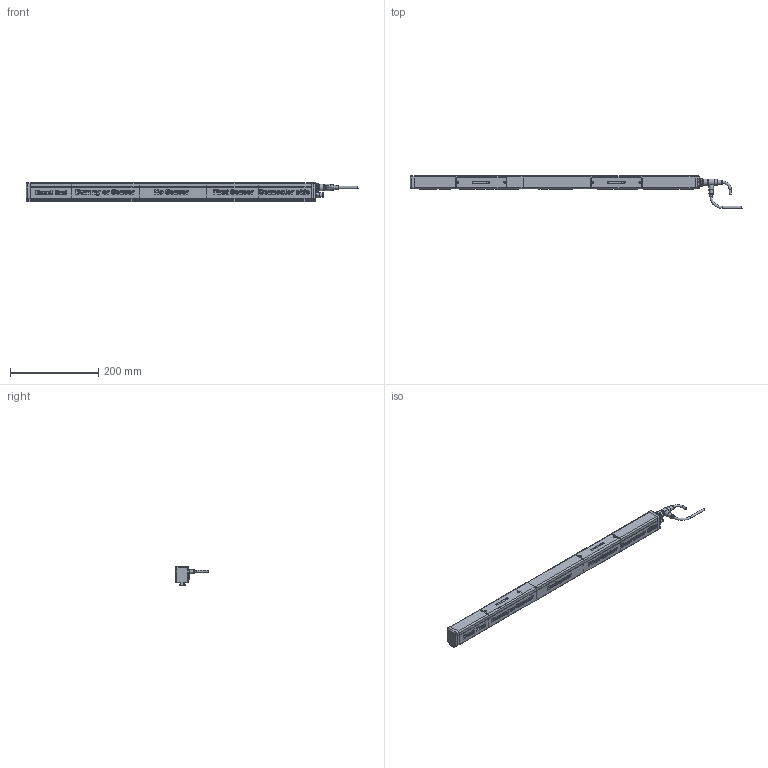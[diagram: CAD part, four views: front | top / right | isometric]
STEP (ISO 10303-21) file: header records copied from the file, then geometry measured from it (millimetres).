
FILE_DESCRIPTION(/* description */ (''),/* implementation_level */ '2;1');
FILE_NAME(/* name */ 'SENSORIQ_3D_GB',/* time_stamp */ '2016-01-29T10:27:09+01:00',/* author */ (''),/* organization */ (''),/* preprocessor_version */ 'ST-DEVELOPER v15.7',/* originating_system */ 'HiCAD 2015 2002.1 Build 408',/* authorisation */ '');
FILE_SCHEMA (('AUTOMOTIVE_DESIGN { 1 0 10303 214 1 1 1 1 }'));
Products named in the file (56): Root; -_SENSOR IQ BAR; -_DEAD END; -_CAP; -_COVER; -_PROFILE; -_TEXT DEAD END; -_DUMMY OR SENSOR; -_INSERT; -_SENSOR; -_SCREW; -_TEXT DUMMY OR SENSOR; -_DUMMY; -_NO SENSOR; -_TEXT NO SENSOR; -_FIRST SENSOR; -_TEXT FIRST SENSOR; -_CONNECTOR SIDE; -_TEXT CONNECTOR SIDE; -_CAP CABLE END; -_LED; 7519020315_Connector appliance M12, 5p (PG9)_4; -_Insert; -_Contacts; -_Housing; 9290001027_Push in air fitting 1/8 - 6_5; -_Connector straight; EXTRUDED SOLID_0; draad gebogen; REVOLVED SOLID_1; REVOLVED SOLID_3; DIN 13-M12x1,5; -_Connector angled; C-EDGE SWEEP_0; REVOLVED SOLID_2
Assembly tree (55 placements, depth 6):
  Root
    -_SENSOR IQ BAR
      -_DEAD END
        -_CAP
        -_COVER
        -_PROFILE
        -_TEXT DEAD END
      -_DUMMY OR SENSOR
        -_INSERT
        -_SENSOR
        -_SCREW
        -_SCREW
        -_COVER
        -_PROFILE
        -_TEXT DUMMY OR SENSOR
        -_DUMMY
      -_NO SENSOR
        -_COVER
        -_PROFILE
        -_TEXT NO SENSOR
      -_FIRST SENSOR
        -_INSERT
        -_SENSOR
        -_SCREW
        -_SCREW
        -_PROFILE
        -_COVER
        -_TEXT FIRST SENSOR
        -_DUMMY
      -_CONNECTOR SIDE
        -_COVER
        -_PROFILE
        -_TEXT CONNECTOR SIDE
        -_CAP CABLE END
          -_LED
          -_LED
          -_LED
          -_CAP
        7519020315_Connector appliance M12, 5p (PG9)_4
          -_Insert
          -_Contacts
          -_Housing
        9290001027_Push in air fitting 1/8 - 6_5
        -_Connector straight
          EXTRUDED SOLID_0
          draad gebogen
          REVOLVED SOLID_1
          REVOLVED SOLID_3
            DIN 13-M12x1,5
        -_Connector angled
          REVOLVED SOLID_1
          EXTRUDED SOLID_0
          C-EDGE SWEEP_0
          REVOLVED SOLID_2
          REVOLVED SOLID_3
            DIN 13-M12x1,5
Bounding box: 751.7 x 74.44 x 43.84 mm (x, y, z)
Volume: 746159.3 mm3; surface area: 182452.5 mm2
Topology: 99 solids, 99 shells, 1459 faces, 3468 edges, 2221 vertices
Faces by surface type: plane 806, bspline 254, cylinder 245, cone 116, torus 35, sphere 3
Full cylindrical faces by diameter (mm): 0.8 x10, 1 x5, 3 x3, 4.2 x2, 4.394 x4, 4.445 x4, 5 x4, 6.35 x2, 8 x2, 8.2 x1, 8.4 x2, 8.945 x1, 8.987 x1, 9 x2, 10.16 x2, 10.2 x1, 10.5 x4, 10.668 x1, 11 x1, 11.074 x1, 12 x5, 12.8 x1, 13.8 x4, 14.5 x3, 17.8 x1
Entity records: 137451 total; most frequent: CARTESIAN_POINT 79433, PRESENTATION_STYLE_ASSIGNMENT 6725, OVER_RIDING_STYLED_ITEM 6626, DRAUGHTING_PRE_DEFINED_CURVE_FONT 6622, CURVE_STYLE 6622, ORIENTED_EDGE 6622, DIRECTION 5653, EDGE_CURVE 3311
